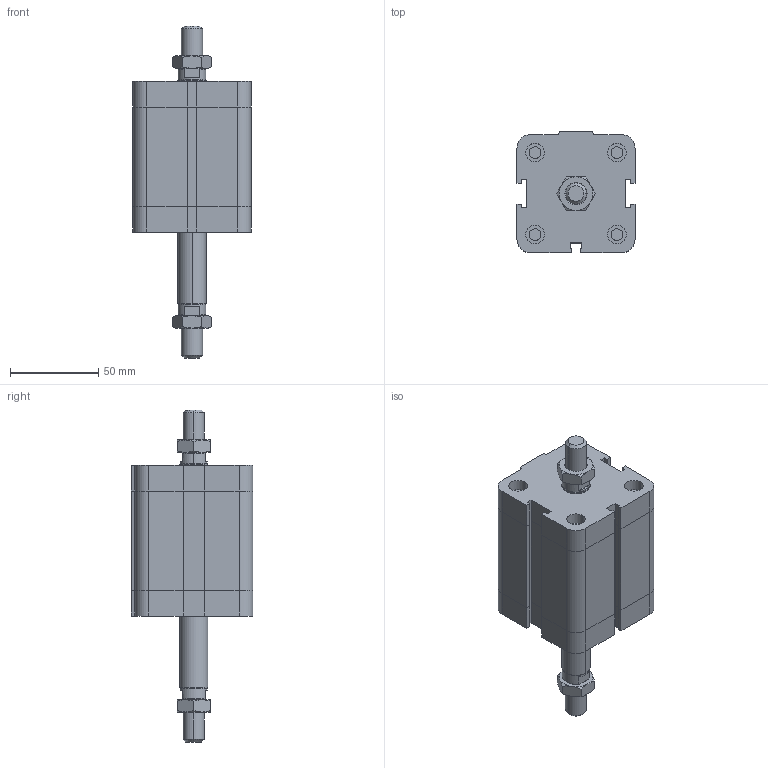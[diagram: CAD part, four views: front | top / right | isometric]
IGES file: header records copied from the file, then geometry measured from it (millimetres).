
Global section: file name: No Iges File Name specified; native system: Autodesk Inventor 2009; preprocessor: AutoDesk Inventor Iges Exporter R2009; author: maffial1; date: 20090420.200722; units: millimetre
Bounding box: 67 x 69 x 188.5 mm (x, y, z)
Volume: 376349.1 mm3; surface area: 54686.3 mm2
Topology: 4 solids, 4 shells, 260 faces, 574 edges, 342 vertices
Faces by surface type: plane 129, bspline 51, cone 38, cylinder 22, revolution 20
